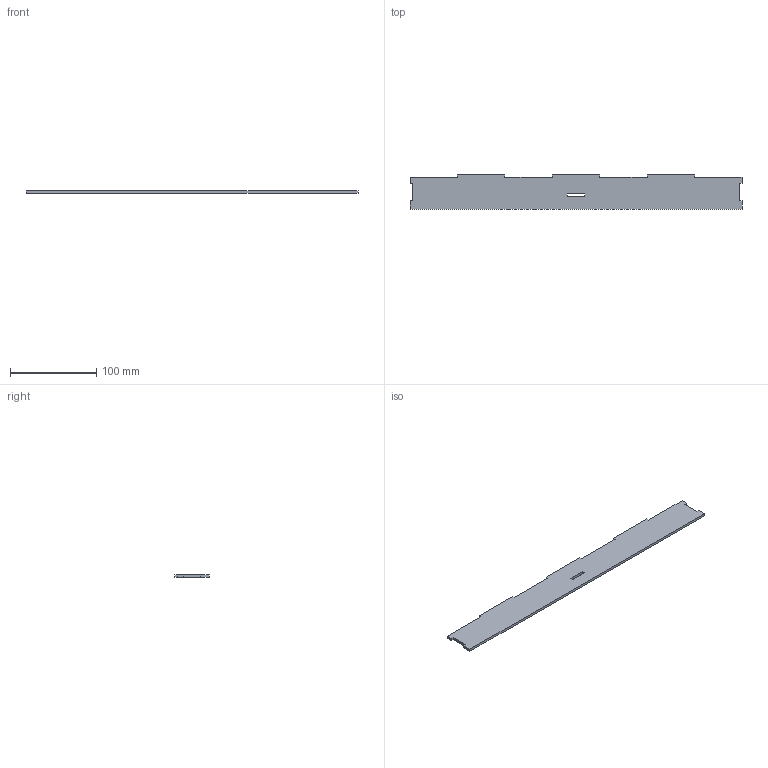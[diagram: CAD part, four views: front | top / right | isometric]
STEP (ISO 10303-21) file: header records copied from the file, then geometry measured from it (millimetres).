
FILE_DESCRIPTION (( 'STEP AP203' ), '1' );
FILE_NAME ('Structure support coté 1.STEP', '2025-09-18T11:53:39', ( '' ), ( '' ), 'SwSTEP 2.0', 'SolidWorks 2019', '' );
FILE_SCHEMA (( 'CONFIG_CONTROL_DESIGN' ));
Length unit declared in the file: millimetre
Products named in the file (1): Structure support coté 1
Bounding box: 385 x 40 x 3 mm (x, y, z)
Volume: 43680 mm3; surface area: 31880 mm2
Topology: 1 solids, 1 shells, 30 faces, 84 edges, 56 vertices
Faces by surface type: plane 30
Entity records: 1029 total; most frequent: CARTESIAN_POINT 171, ORIENTED_EDGE 168, DIRECTION 146, LINE 84, EDGE_CURVE 84, VECTOR 84, VERTEX_POINT 56, EDGE_LOOP 32
